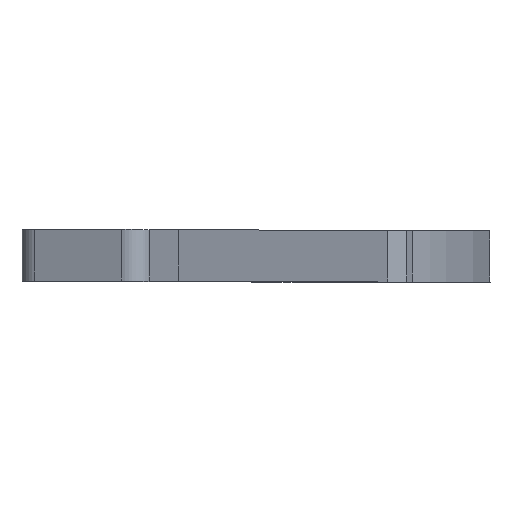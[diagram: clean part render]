
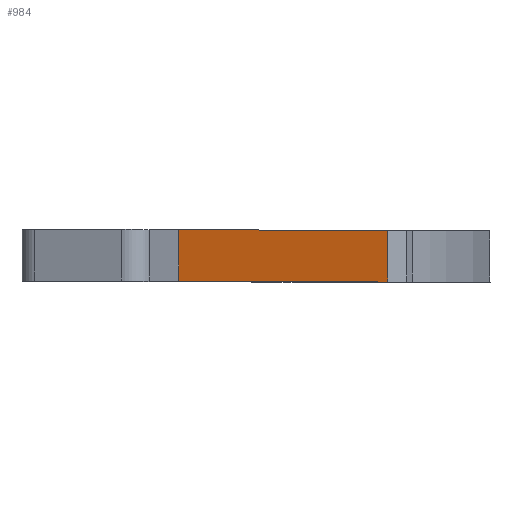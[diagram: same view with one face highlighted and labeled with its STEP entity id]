
A CAD part, top view. The second image highlights one B-rep face of the part: STEP entity #984.
In plain terms, the highlighted planar face has unit normal (0.915, 0, 0.402).
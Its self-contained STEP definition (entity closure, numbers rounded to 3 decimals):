
#142=FACE_OUTER_BOUND('',#209,.T.);
#209=EDGE_LOOP('',(#865,#866,#867,#868));
#277=LINE('',#1624,#368);
#294=LINE('',#1727,#385);
#299=LINE('',#1788,#390);
#302=LINE('',#1792,#393);
#368=VECTOR('',#1244,10.);
#385=VECTOR('',#1285,10.);
#390=VECTOR('',#1302,10.);
#393=VECTOR('',#1307,10.);
#463=VERTEX_POINT('',#1621);
#464=VERTEX_POINT('',#1623);
#491=VERTEX_POINT('',#1724);
#492=VERTEX_POINT('',#1726);
#583=EDGE_CURVE('',#463,#464,#277,.T.);
#614=EDGE_CURVE('',#491,#492,#294,.F.);
#625=EDGE_CURVE('',#463,#492,#299,.F.);
#628=EDGE_CURVE('',#464,#491,#302,.T.);
#865=ORIENTED_EDGE('',*,*,#614,.F.);
#866=ORIENTED_EDGE('',*,*,#628,.F.);
#867=ORIENTED_EDGE('',*,*,#583,.F.);
#868=ORIENTED_EDGE('',*,*,#625,.T.);
#939=PLANE('',#1071);
#984=ADVANCED_FACE('',(#142),#939,.F.);
#1071=AXIS2_PLACEMENT_3D('',#1793,#1308,#1309);
#1244=DIRECTION('',(-0.402,0.,0.915));
#1285=DIRECTION('',(-0.402,0.,0.915));
#1302=DIRECTION('',(0.,-1.,0.));
#1307=DIRECTION('',(0.,1.,0.));
#1308=DIRECTION('center_axis',(-0.915,0.,-0.402));
#1309=DIRECTION('ref_axis',(-0.402,0.,0.915));
#1621=CARTESIAN_POINT('',(67.131,-6.,-78.732));
#1623=CARTESIAN_POINT('',(42.802,-6.,-23.384));
#1624=CARTESIAN_POINT('',(62.07,-6.,-67.218));
#1724=CARTESIAN_POINT('',(42.802,0.,-23.384));
#1726=CARTESIAN_POINT('',(67.131,0.,-78.732));
#1727=CARTESIAN_POINT('',(62.07,0.,-67.218));
#1788=CARTESIAN_POINT('',(67.131,-4.5,-78.732));
#1792=CARTESIAN_POINT('',(42.802,-4.5,-23.384));
#1793=CARTESIAN_POINT('Origin',(65.3,-4.5,-74.566));
